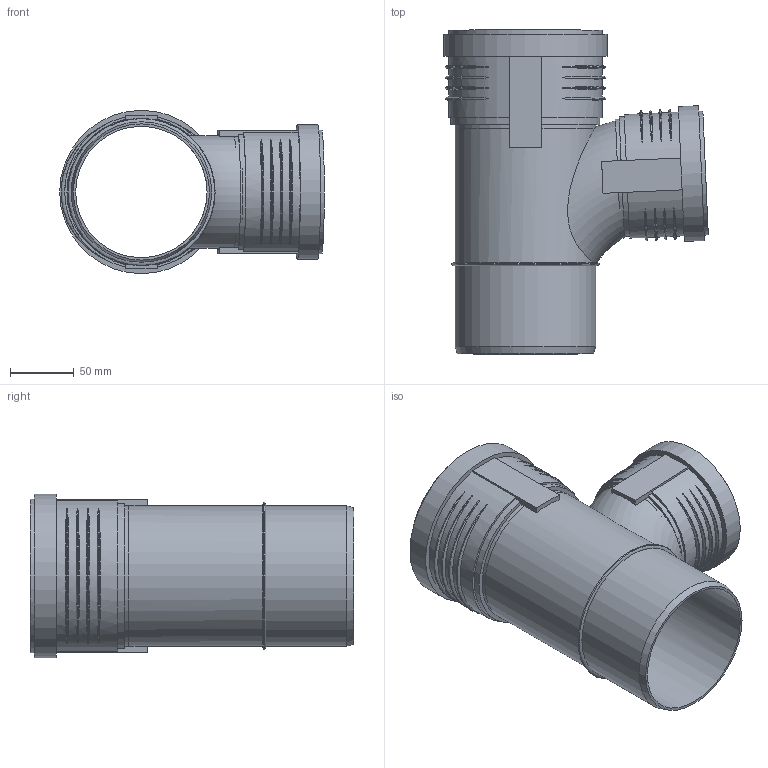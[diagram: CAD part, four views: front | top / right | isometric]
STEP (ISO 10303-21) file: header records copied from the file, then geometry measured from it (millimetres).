
FILE_DESCRIPTION(/* description */ (''),/* implementation_level */ '2;1');
FILE_NAME(/* name */ 'Z:\Geberit\Export\NewStep\390554.stp',/* time_stamp */ '2014-04-02T08:14:37+02:00',/* author */ ('ML'),/* organization */ (''),/* preprocessor_version */ 'ST-DEVELOPER v15.2',/* originating_system */ 'Autodesk Inventor 2014',/* authorisation */ '');
FILE_SCHEMA (('AUTOMOTIVE_DESIGN { 1 0 10303 214 3 1 1 }'));
Length unit declared in the file: millimetre
Products named in the file (4): 861362; 861403; 861404; 390554
Bounding box: 207.5 x 254 x 128.1 mm (x, y, z)
Volume: 432977.9 mm3; surface area: 261320 mm2
Topology: 3 solids, 3 shells, 131 faces, 314 edges, 215 vertices
Faces by surface type: torus 53, plane 44, cylinder 31, cone 3
Full cylindrical faces by diameter (mm): 84 x1, 84.2 x1, 90.2 x2, 91.2 x2, 97.2 x1, 99.8 x1, 103 x1, 103.2 x1, 105.8 x1, 110.2 x3, 113.3 x2, 120.3 x1, 121.1 x1, 128.1 x1
Entity records: 5427 total; most frequent: CARTESIAN_POINT 2378, ORIENTED_EDGE 562, DIRECTION 554, EDGE_CURVE 281, AXIS2_PLACEMENT_3D 241, VERTEX_POINT 209, EDGE_LOOP 192, STYLED_ITEM 134
